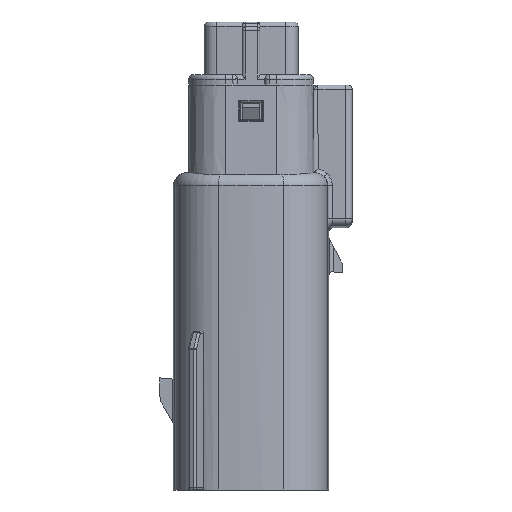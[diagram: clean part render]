
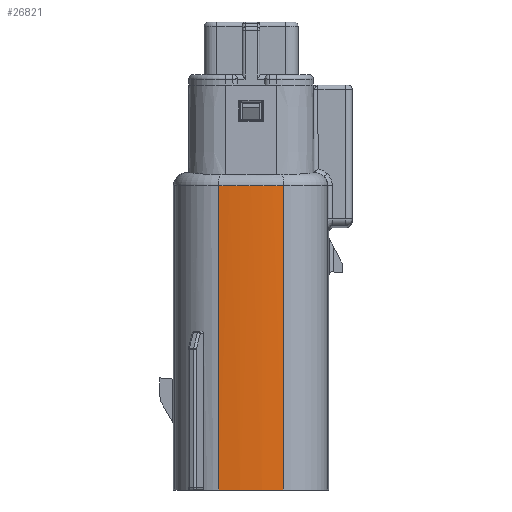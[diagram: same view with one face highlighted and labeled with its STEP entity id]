
A CAD part, left-side view. The second image highlights one B-rep face of the part: STEP entity #26821.
In plain terms, the highlighted cylindrical face has radius 31.728 mm (diameter 63.455 mm), a partial arc.
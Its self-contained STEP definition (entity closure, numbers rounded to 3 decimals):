
#5711=DIRECTION('',(0.,0.,1.));
#5712=VECTOR('',#5711,35.);
#5713=CARTESIAN_POINT('',(-14.499,3.722,-19.25));
#5714=LINE('',#5713,#5712);
#5860=CARTESIAN_POINT('',(17.01,0.,-19.25));
#5861=DIRECTION('',(0.,0.,1.));
#5862=DIRECTION('',(-0.993,0.117,0.));
#5863=AXIS2_PLACEMENT_3D('',#5860,#5861,#5862);
#6724=DIRECTION('',(0.,0.,1.));
#6725=VECTOR('',#6724,35.);
#6726=CARTESIAN_POINT('',(-14.499,-3.722,-19.25));
#6727=LINE('',#6726,#6725);
#6992=CARTESIAN_POINT('',(17.01,0.,15.75));
#6993=DIRECTION('',(0.,0.,1.));
#6994=DIRECTION('',(-0.993,0.117,0.));
#6995=AXIS2_PLACEMENT_3D('',#6992,#6993,#6994);
#7030=CARTESIAN_POINT('',(17.01,0.,15.75));
#7031=DIRECTION('',(0.,0.,1.));
#7032=DIRECTION('',(-1.,0.,0.));
#7033=AXIS2_PLACEMENT_3D('',#7030,#7031,#7032);
#14497=CARTESIAN_POINT('',(-14.499,-3.722,-19.25));
#14498=VERTEX_POINT('',#14497);
#14752=CARTESIAN_POINT('',(-14.499,3.722,15.75));
#14753=VERTEX_POINT('',#14752);
#14756=CARTESIAN_POINT('',(-14.499,3.722,-19.25));
#14757=VERTEX_POINT('',#14756);
#14780=CARTESIAN_POINT('',(-14.718,0.,15.75));
#14781=VERTEX_POINT('',#14780);
#14782=CARTESIAN_POINT('',(-14.499,-3.722,15.75));
#14783=VERTEX_POINT('',#14782);
#26806=CARTESIAN_POINT('',(17.01,0.,-4.2));
#26807=DIRECTION('',(0.,0.,1.));
#26808=DIRECTION('',(-1.,0.,0.));
#26809=AXIS2_PLACEMENT_3D('',#26806,#26807,#26808);
#26810=CYLINDRICAL_SURFACE('',#26809,31.728);
#26812=ORIENTED_EDGE('',*,*,#26811,.F.);
#26813=ORIENTED_EDGE('',*,*,#25470,.F.);
#26814=ORIENTED_EDGE('',*,*,#25304,.T.);
#26816=ORIENTED_EDGE('',*,*,#26815,.T.);
#26818=ORIENTED_EDGE('',*,*,#26817,.T.);
#26819=EDGE_LOOP('',(#26812,#26813,#26814,#26816,#26818));
#26820=FACE_OUTER_BOUND('',#26819,.F.);
#26821=ADVANCED_FACE('',(#26820),#26810,.T.);
#5864=CIRCLE('',#5863,31.728);
#6996=CIRCLE('',#6995,31.728);
#7034=CIRCLE('',#7033,31.728);
#25304=EDGE_CURVE('',#14757,#14753,#5714,.T.);
#25470=EDGE_CURVE('',#14757,#14498,#5864,.T.);
#26811=EDGE_CURVE('',#14498,#14783,#6727,.T.);
#26815=EDGE_CURVE('',#14753,#14781,#6996,.T.);
#26817=EDGE_CURVE('',#14781,#14783,#7034,.T.);
